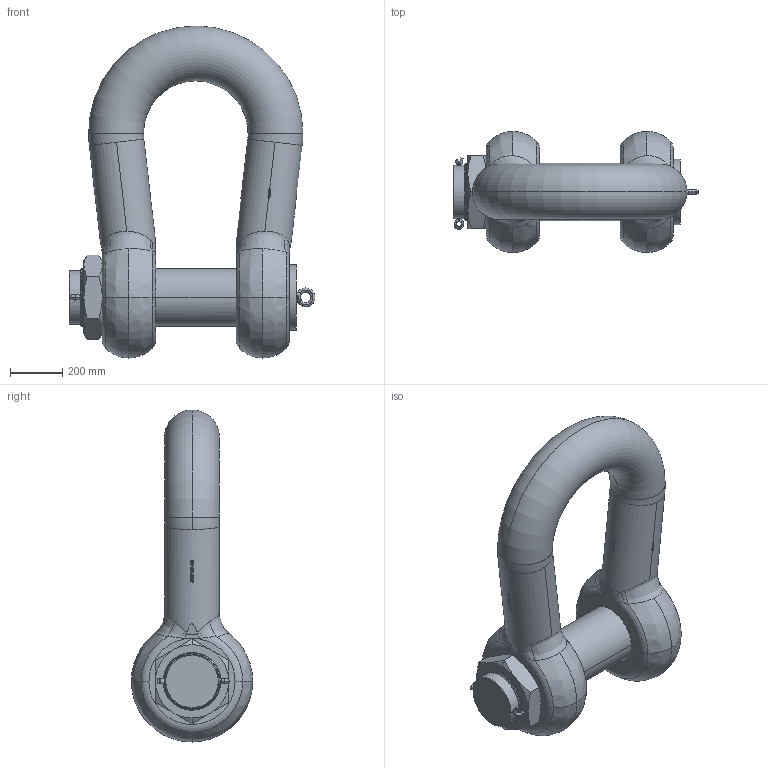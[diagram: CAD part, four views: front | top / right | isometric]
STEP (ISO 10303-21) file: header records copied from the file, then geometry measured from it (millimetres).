
FILE_DESCRIPTION(('STEP AP214'),'1');
FILE_NAME('hdgphm0800.stp','2017-06-30T09:24:47',('TraceParts'),('TraceParts S.A.'),'Spatial InterOp 3D',' ',' ');
FILE_SCHEMA(('automotive_design'));
Length unit declared in the file: millimetre
Products named in the file (5): HDGPHM0800|HDGPHM0800_1#HDGPHM0800_1;MANIFOLD_SOLID_BREP #21628; HDGPHM0800|HDGPHM0800_1#HDGPHM0800_2;MANIFOLD_SOLID_BREP #40477; hdgphm0800_3; hdgphm0800_4; hdgphm0800_5
Bounding box: 941 x 464 x 1269.99 mm (x, y, z)
Volume: 140256044.4 mm3; surface area: 3293336 mm2
Topology: 5 solids, 5 shells, 1294 faces, 4966 edges, 3734 vertices
Faces by surface type: bspline 514, plane 382, cylinder 336, torus 36, cone 26
Entity records: 106257 total; most frequent: CARTESIAN_POINT 62226, ORIENTED_EDGE 9928, EDGE_CURVE 4964, VERTEX_POINT 3734, B_SPLINE_CURVE_WITH_KNOTS 3724, DIRECTION 2860, EDGE_LOOP 1358, STYLED_ITEM 1299
